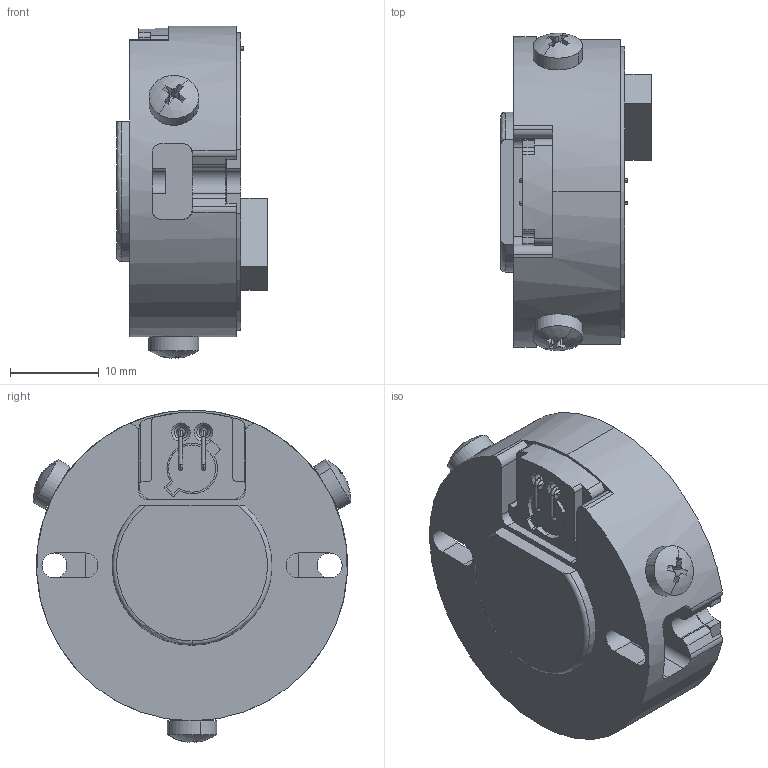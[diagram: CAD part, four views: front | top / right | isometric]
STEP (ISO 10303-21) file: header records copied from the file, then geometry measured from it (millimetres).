
FILE_DESCRIPTION (( 'STEP AP214' ), '1' );
FILE_NAME ('【整机】35分体光电编码器.STEP', '2022-05-04T05:42:36', ( '' ), ( '' ), 'SwSTEP 2.0', 'SolidWorks 2016', '' );
FILE_SCHEMA (( 'AUTOMOTIVE_DESIGN' ));
Length unit declared in the file: millimetre
Products named in the file (1): 【整机】35分体光电编码器
Bounding box: 16.99 x 35.73 x 37.38 mm (x, y, z)
Surface area: 8428.1 mm2 (no closed solid volume)
Topology: 0 solids, 9 shells, 441 faces, 1199 edges, 778 vertices
Faces by surface type: cylinder 183, plane 157, cone 49, bspline 30, torus 16, sphere 6
Entity records: 20367 total; most frequent: CARTESIAN_POINT 4433, ORIENTED_EDGE 2328, DIRECTION 2310, EDGE_CURVE 1199, AXIS2_PLACEMENT_3D 899, VERTEX_POINT 778, VECTOR 512, LINE 512
